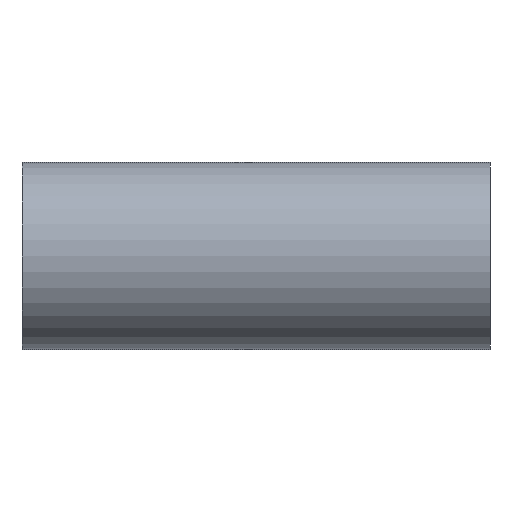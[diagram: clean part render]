
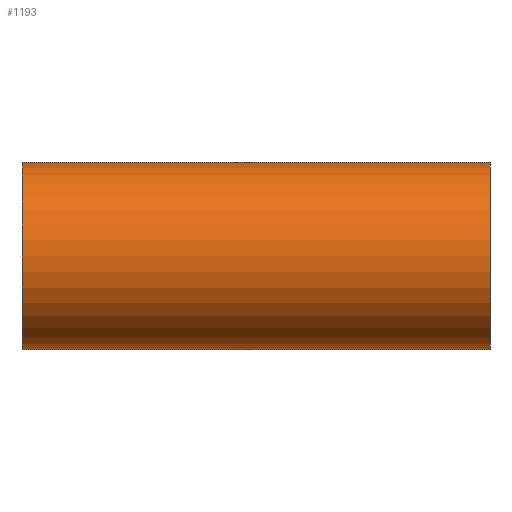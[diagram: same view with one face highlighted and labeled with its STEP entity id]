
A CAD part, front view. The second image highlights one B-rep face of the part: STEP entity #1193.
In plain terms, the highlighted cylindrical face has radius 31.75 mm (diameter 63.5 mm), a partial arc.
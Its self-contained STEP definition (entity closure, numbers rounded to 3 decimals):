
#22 = VERTEX_POINT ( 'NONE', #1588 ) ;
#50 = VERTEX_POINT ( 'NONE', #347 ) ;
#224 = ORIENTED_EDGE ( 'NONE', *, *, #719, .F. ) ;
#302 = CYLINDRICAL_SURFACE ( 'NONE', #1136, 31.75 ) ;
#328 = VECTOR ( 'NONE', #1191, 1000. ) ;
#347 = CARTESIAN_POINT ( 'NONE',  ( 79.4, 0., 31.75 ) ) ;
#366 = CARTESIAN_POINT ( 'NONE',  ( -79.4, 0., 0. ) ) ;
#373 = FACE_OUTER_BOUND ( 'NONE', #775, .T. ) ;
#389 = VERTEX_POINT ( 'NONE', #1171 ) ;
#391 = LINE ( 'NONE', #1207, #328 ) ;
#529 = EDGE_CURVE ( 'NONE', #389, #50, #767, .T. ) ;
#562 = VERTEX_POINT ( 'NONE', #1447 ) ;
#572 = DIRECTION ( 'NONE',  ( 1., 0., 0. ) ) ;
#576 = CARTESIAN_POINT ( 'NONE',  ( -79.4, 0., 0. ) ) ;
#656 = CARTESIAN_POINT ( 'NONE',  ( -79.4, 0., 31.75 ) ) ;
#704 = CIRCLE ( 'NONE', #1365, 31.75 ) ;
#719 = EDGE_CURVE ( 'NONE', #562, #50, #1364, .T. ) ;
#767 = CIRCLE ( 'NONE', #1214, 31.75 ) ;
#775 = EDGE_LOOP ( 'NONE', ( #224, #1547, #1327, #960 ) ) ;
#833 = DIRECTION ( 'NONE',  ( -1., 0., 0. ) ) ;
#886 = EDGE_CURVE ( 'NONE', #22, #389, #391, .T. ) ;
#960 = ORIENTED_EDGE ( 'NONE', *, *, #529, .T. ) ;
#1104 = DIRECTION ( 'NONE',  ( 1., 0., 0. ) ) ;
#1136 = AXIS2_PLACEMENT_3D ( 'NONE', #576, #1336, #1192 ) ;
#1138 = EDGE_CURVE ( 'NONE', #562, #22, #704, .T. ) ;
#1171 = CARTESIAN_POINT ( 'NONE',  ( 79.4, 0., -31.75 ) ) ;
#1191 = DIRECTION ( 'NONE',  ( 1., 0., 0. ) ) ;
#1192 = DIRECTION ( 'NONE',  ( 0., 0., -1. ) ) ;
#1193 = ADVANCED_FACE ( 'NONE', ( #373 ), #302, .T. ) ;
#1207 = CARTESIAN_POINT ( 'NONE',  ( -79.4, 0., -31.75 ) ) ;
#1214 = AXIS2_PLACEMENT_3D ( 'NONE', #1254, #833, #1398 ) ;
#1254 = CARTESIAN_POINT ( 'NONE',  ( 79.4, 0., 0. ) ) ;
#1327 = ORIENTED_EDGE ( 'NONE', *, *, #886, .T. ) ;
#1336 = DIRECTION ( 'NONE',  ( 1., 0., 0. ) ) ;
#1364 = LINE ( 'NONE', #656, #1805 ) ;
#1365 = AXIS2_PLACEMENT_3D ( 'NONE', #366, #1104, #1520 ) ;
#1398 = DIRECTION ( 'NONE',  ( 0., 0., -1. ) ) ;
#1447 = CARTESIAN_POINT ( 'NONE',  ( -79.4, 0., 31.75 ) ) ;
#1520 = DIRECTION ( 'NONE',  ( 0., 0., -1. ) ) ;
#1547 = ORIENTED_EDGE ( 'NONE', *, *, #1138, .T. ) ;
#1588 = CARTESIAN_POINT ( 'NONE',  ( -79.4, 0., -31.75 ) ) ;
#1805 = VECTOR ( 'NONE', #572, 1000. ) ;
